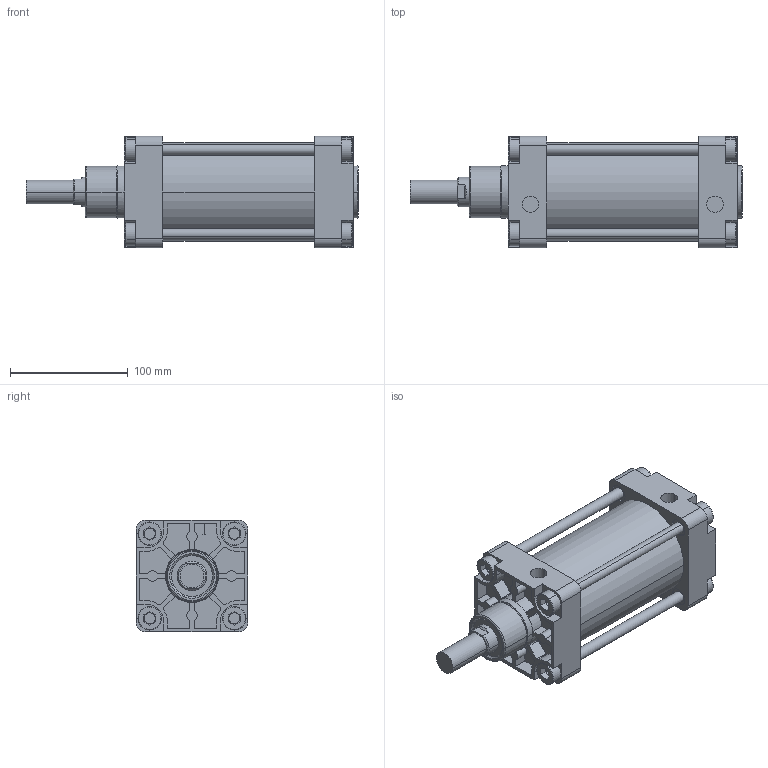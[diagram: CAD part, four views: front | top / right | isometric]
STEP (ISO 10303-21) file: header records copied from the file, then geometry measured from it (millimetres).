
FILE_DESCRIPTION(('CATIA V5 STEP Exchange'),'2;1');
FILE_NAME('D:\stp file for catalog\PNC\80\PNC 80-25-60.stp','2015-10-14T08:18:46+00:00',('none'),('none'),'Version 5-6 Release 2012','CATIA V5 STEP AP203','none');
FILE_SCHEMA(('CONFIG_CONTROL_DESIGN'));
Length unit declared in the file: millimetre
Products named in the file (1): PNC 80-25-60-00
Assembly tree (2 placements, depth 2):
  PNC 80-25-60-00
    #58
    #14781
Bounding box: 282.5 x 95 x 95 mm (x, y, z)
Volume: 1015029.4 mm3; surface area: 241532.6 mm2
Topology: 6 solids, 6 shells, 560 faces, 1404 edges, 916 vertices
Faces by surface type: plane 328, cylinder 184, torus 28, extrusion 16, cone 4
Entity records: 15305 total; most frequent: CARTESIAN_POINT 3040, ORIENTED_EDGE 2808, DIRECTION 1892, EDGE_CURVE 1404, VERTEX_POINT 916, VECTOR 898, LINE 882, AXIS2_PLACEMENT_3D 722
